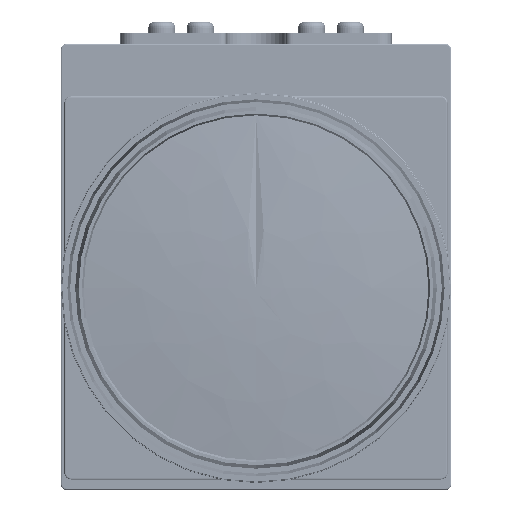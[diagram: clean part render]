
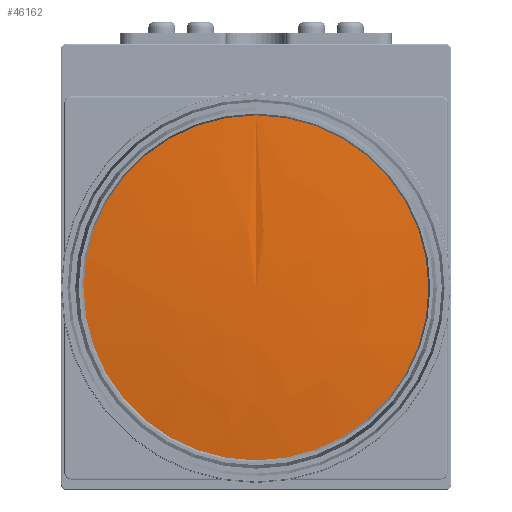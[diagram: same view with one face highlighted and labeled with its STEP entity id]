
A CAD part, left-side view. The second image highlights one B-rep face of the part: STEP entity #46162.
In plain terms, the highlighted free-form (B-spline) face has degree [3, 3] with [4, 7] control points.
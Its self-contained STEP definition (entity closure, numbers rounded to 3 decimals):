
#46162 = ADVANCED_FACE( '', ( #85736, #85737 ), #85738, .T. );
#85736 = FACE_BOUND( '', #126168, .T. );
#85737 = FACE_OUTER_BOUND( '', #126169, .T. );
#85738 = ( BOUNDED_SURFACE(  )B_SPLINE_SURFACE( 3, 3, ( ( #126172, #126173, #126174, #126175, #126176, #126177, #126178 ), ( #126179, #126180, #126181, #126182, #126183, #126184, #126185 ), ( #126186, #126187, #126188, #126189, #126190, #126191, #126192 ), ( #126193, #126194, #126195, #126196, #126197, #126198, #126199 ) ), .UNSPECIFIED., .F., .T., .F. )B_SPLINE_SURFACE_WITH_KNOTS( ( 4, 4 ), ( 4, 3, 4 ), ( 0., 6.283 ), ( -1.574, -1.517, -1.461 ), .UNSPECIFIED. )GEOMETRIC_REPRESENTATION_ITEM(  )RATIONAL_B_SPLINE_SURFACE( ( ( 1., 0.333, 0.333, 1., 0.333, 0.333, 1. ), ( 0.999, 0.333, 0.333, 0.999, 0.333, 0.333, 0.999 ), ( 0.999, 0.333, 0.333, 0.999, 0.333, 0.333, 0.999 ), ( 1., 0.333, 0.333, 1., 0.333, 0.333, 1. ) ) )REPRESENTATION_ITEM( '' )SURFACE(  ) );
#126168 = VERTEX_LOOP( '', #195134 );
#126169 = EDGE_LOOP( '', ( #195135 ) );
#126172 = CARTESIAN_POINT( '', ( 68.328, 0., 53.746 ) );
#126173 = CARTESIAN_POINT( '', ( 68.328, 49.492, 53.746 ) );
#126174 = CARTESIAN_POINT( '', ( 68.328, 49.492, 4.254 ) );
#126175 = CARTESIAN_POINT( '', ( 68.328, 0., 4.254 ) );
#126176 = CARTESIAN_POINT( '', ( 68.328, -49.492, 4.254 ) );
#126177 = CARTESIAN_POINT( '', ( 68.328, -49.492, 53.746 ) );
#126178 = CARTESIAN_POINT( '', ( 68.328, 0., 53.746 ) );
#126179 = CARTESIAN_POINT( '', ( 69.237, 0., 45.527 ) );
#126180 = CARTESIAN_POINT( '', ( 69.237, 33.053, 45.527 ) );
#126181 = CARTESIAN_POINT( '', ( 69.237, 33.053, 12.473 ) );
#126182 = CARTESIAN_POINT( '', ( 69.237, 0., 12.473 ) );
#126183 = CARTESIAN_POINT( '', ( 69.237, -33.053, 12.473 ) );
#126184 = CARTESIAN_POINT( '', ( 69.237, -33.053, 45.527 ) );
#126185 = CARTESIAN_POINT( '', ( 69.237, 0., 45.527 ) );
#126186 = CARTESIAN_POINT( '', ( 69.678, 0., 37.269 ) );
#126187 = CARTESIAN_POINT( '', ( 69.678, 16.538, 37.269 ) );
#126188 = CARTESIAN_POINT( '', ( 69.678, 16.538, 20.731 ) );
#126189 = CARTESIAN_POINT( '', ( 69.678, 0., 20.731 ) );
#126190 = CARTESIAN_POINT( '', ( 69.678, -16.538, 20.731 ) );
#126191 = CARTESIAN_POINT( '', ( 69.678, -16.538, 37.269 ) );
#126192 = CARTESIAN_POINT( '', ( 69.678, 0., 37.269 ) );
#126193 = CARTESIAN_POINT( '', ( 69.65, 0., 29. ) );
#126194 = CARTESIAN_POINT( '', ( 69.65, 0., 29. ) );
#126195 = CARTESIAN_POINT( '', ( 69.65, 0., 29. ) );
#126196 = CARTESIAN_POINT( '', ( 69.65, 0., 29. ) );
#126197 = CARTESIAN_POINT( '', ( 69.65, 0., 29. ) );
#126198 = CARTESIAN_POINT( '', ( 69.65, 0., 29. ) );
#126199 = CARTESIAN_POINT( '', ( 69.65, 0., 29. ) );
#195134 = VERTEX_POINT( '', #246730 );
#195135 = ORIENTED_EDGE( '', *, *, #228042, .F. );
#228042 = EDGE_CURVE( '', #263148, #263148, #263149, .T. );
#246730 = CARTESIAN_POINT( '', ( 69.65, 0., 29. ) );
#263148 = VERTEX_POINT( '', #311649 );
#263149 = CIRCLE( '', #311650, 24.746 );
#311649 = CARTESIAN_POINT( '', ( 68.328, 0., 53.746 ) );
#311650 = AXIS2_PLACEMENT_3D( '', #365871, #365872, #365873 );
#365871 = CARTESIAN_POINT( '', ( 68.328, 0., 29. ) );
#365872 = DIRECTION( '', ( -1., 0., 0. ) );
#365873 = DIRECTION( '', ( 0., 0., 1. ) );
